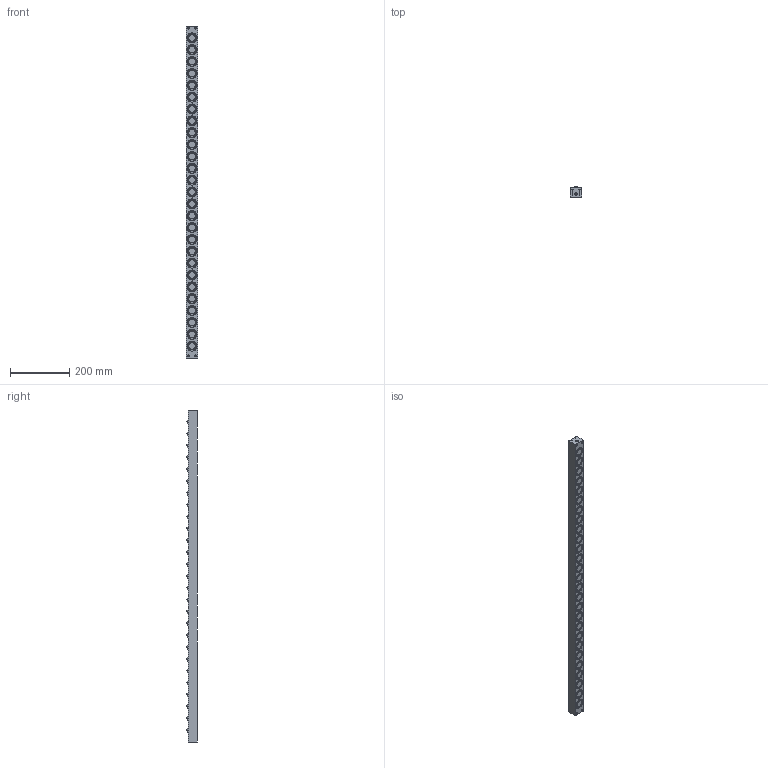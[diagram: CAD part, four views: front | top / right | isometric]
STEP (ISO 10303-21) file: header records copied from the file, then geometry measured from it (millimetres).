
FILE_DESCRIPTION (( 'STEP AP203' ), '1' );
FILE_NAME ('PVL30S-27.STEP', '2016-02-18T05:27:05', ( '' ), ( '' ), 'SwSTEP 2.0', 'SolidWorks 2013', '' );
FILE_SCHEMA (( 'CONFIG_CONTROL_DESIGN' ));
Length unit declared in the file: millimetre
Products named in the file (1): PVL30S-27
Bounding box: 38 x 36 x 1120 mm (x, y, z)
Volume: 1300307.1 mm3; surface area: 200687.1 mm2
Topology: 1 solids, 1 shells, 870 faces, 2047 edges, 1372 vertices
Faces by surface type: cylinder 558, plane 254, sphere 54, cone 4
Entity records: 25792 total; most frequent: DIRECTION 5069, CARTESIAN_POINT 4288, ORIENTED_EDGE 4090, AXIS2_PLACEMENT_3D 2153, EDGE_CURVE 2045, VERTEX_POINT 1372, CIRCLE 1282, EDGE_LOOP 1073
